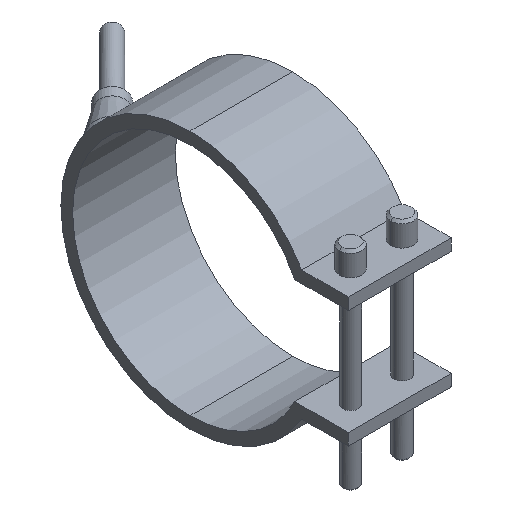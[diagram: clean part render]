
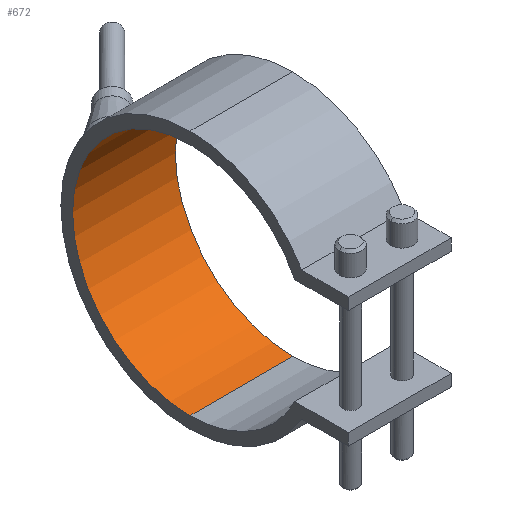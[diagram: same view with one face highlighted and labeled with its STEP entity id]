
A CAD part, isometric view. The second image highlights one B-rep face of the part: STEP entity #672.
In plain terms, the highlighted cylindrical face has radius 40 mm (diameter 80 mm), a partial arc.
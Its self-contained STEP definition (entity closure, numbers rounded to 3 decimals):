
#354=CARTESIAN_POINT('Vertex',(17.5,0.,40.)) ;
#359=CARTESIAN_POINT('Axis2P3D Location',(17.5,0.,0.)) ;
#363=CARTESIAN_POINT('Vertex',(17.5,0.,-40.)) ;
#470=CARTESIAN_POINT('Vertex',(-17.5,0.,-40.)) ;
#473=CARTESIAN_POINT('Axis2P3D Location',(-17.5,0.,0.)) ;
#477=CARTESIAN_POINT('Vertex',(-17.5,0.,40.)) ;
#644=CARTESIAN_POINT('Line Origine',(17.5,0.,40.)) ;
#656=CARTESIAN_POINT('Axis2P3D Location',(17.5,0.,0.)) ;
#661=CARTESIAN_POINT('Line Origine',(17.5,0.,-40.)) ;
#360=DIRECTION('Axis2P3D Direction',(1.,0.,0.)) ;
#474=DIRECTION('Axis2P3D Direction',(1.,0.,0.)) ;
#645=DIRECTION('Vector Direction',(1.,0.,0.)) ;
#657=DIRECTION('Axis2P3D Direction',(1.,0.,-0.)) ;
#658=DIRECTION('Axis2P3D XDirection',(0.,0.,-1.)) ;
#662=DIRECTION('Vector Direction',(1.,0.,0.)) ;
#361=AXIS2_PLACEMENT_3D('Circle Axis2P3D',#359,#360,$) ;
#475=AXIS2_PLACEMENT_3D('Circle Axis2P3D',#473,#474,$) ;
#659=AXIS2_PLACEMENT_3D('Cylinder Axis2P3D',#656,#657,#658) ;
#667=ORIENTED_EDGE('',*,*,#365,.T.) ;
#668=ORIENTED_EDGE('',*,*,#648,.T.) ;
#669=ORIENTED_EDGE('',*,*,#479,.F.) ;
#670=ORIENTED_EDGE('',*,*,#665,.T.) ;
#646=VECTOR('Line Direction',#645,1.) ;
#663=VECTOR('Line Direction',#662,1.) ;
#672=ADVANCED_FACE('29080035',(#671),#660,.F.) ;
#362=CIRCLE('generated circle',#361,40.) ;
#476=CIRCLE('generated circle',#475,40.) ;
#660=CYLINDRICAL_SURFACE('generated cylinder',#659,40.) ;
#365=EDGE_CURVE('',#364,#355,#362,.T.) ;
#479=EDGE_CURVE('',#471,#478,#476,.T.) ;
#648=EDGE_CURVE('',#355,#478,#647,.F.) ;
#665=EDGE_CURVE('',#471,#364,#664,.T.) ;
#666=EDGE_LOOP('',(#667,#668,#669,#670)) ;
#671=FACE_OUTER_BOUND('',#666,.T.) ;
#647=LINE('Line',#644,#646) ;
#664=LINE('Line',#661,#663) ;
#355=VERTEX_POINT('',#354) ;
#364=VERTEX_POINT('',#363) ;
#471=VERTEX_POINT('',#470) ;
#478=VERTEX_POINT('',#477) ;
